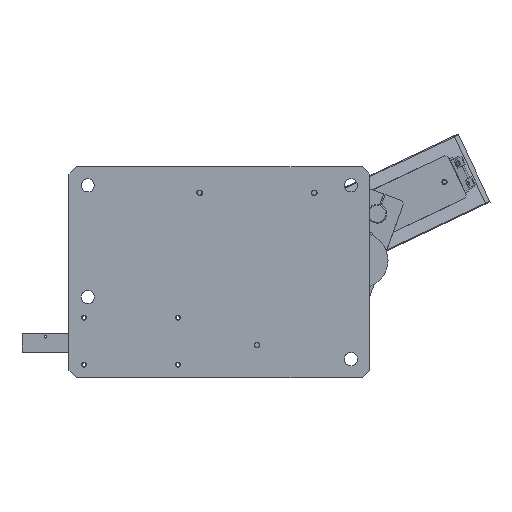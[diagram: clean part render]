
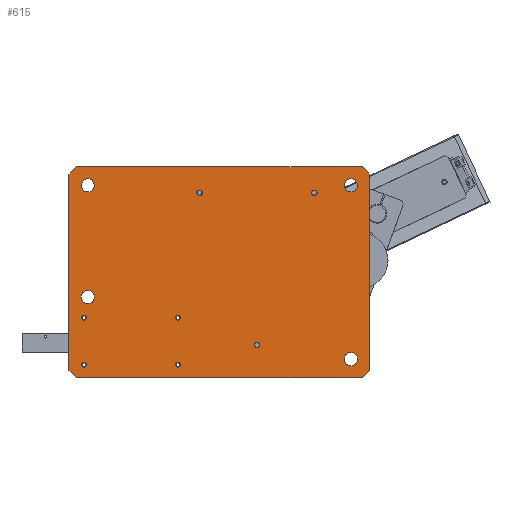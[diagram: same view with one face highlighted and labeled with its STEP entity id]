
A CAD part, front view. The second image highlights one B-rep face of the part: STEP entity #615.
In plain terms, the highlighted planar face has unit normal (0, -1, 0).
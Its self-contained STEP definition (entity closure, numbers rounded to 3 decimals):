
#2=CARTESIAN_POINT('',(-44.,0.,-98.5));
#3=DIRECTION('',(0.,1.,0.));
#4=DIRECTION('',(1.,0.,0.));
#5=AXIS2_PLACEMENT_3D('',#2,#3,#4);
#7=CARTESIAN_POINT('',(-44.,0.,-98.5));
#8=DIRECTION('',(0.,1.,0.));
#9=DIRECTION('',(-1.,0.,0.));
#10=AXIS2_PLACEMENT_3D('',#7,#8,#9);
#12=CARTESIAN_POINT('',(-144.,0.,-98.5));
#13=DIRECTION('',(0.,1.,0.));
#14=DIRECTION('',(1.,0.,0.));
#15=AXIS2_PLACEMENT_3D('',#12,#13,#14);
#17=CARTESIAN_POINT('',(-144.,0.,-98.5));
#18=DIRECTION('',(0.,1.,0.));
#19=DIRECTION('',(-1.,0.,0.));
#20=AXIS2_PLACEMENT_3D('',#17,#18,#19);
#22=CARTESIAN_POINT('',(-44.,0.,-48.5));
#23=DIRECTION('',(0.,1.,0.));
#24=DIRECTION('',(1.,0.,0.));
#25=AXIS2_PLACEMENT_3D('',#22,#23,#24);
#27=CARTESIAN_POINT('',(-44.,0.,-48.5));
#28=DIRECTION('',(0.,1.,0.));
#29=DIRECTION('',(-1.,0.,0.));
#30=AXIS2_PLACEMENT_3D('',#27,#28,#29);
#32=CARTESIAN_POINT('',(-144.,0.,-48.5));
#33=DIRECTION('',(0.,1.,0.));
#34=DIRECTION('',(1.,0.,0.));
#35=AXIS2_PLACEMENT_3D('',#32,#33,#34);
#37=CARTESIAN_POINT('',(-144.,0.,-48.5));
#38=DIRECTION('',(0.,1.,0.));
#39=DIRECTION('',(-1.,0.,0.));
#40=AXIS2_PLACEMENT_3D('',#37,#38,#39);
#42=CARTESIAN_POINT('',(40.,0.,-77.5));
#43=DIRECTION('',(0.,1.,0.));
#44=DIRECTION('',(1.,0.,0.));
#45=AXIS2_PLACEMENT_3D('',#42,#43,#44);
#47=CARTESIAN_POINT('',(40.,0.,-77.5));
#48=DIRECTION('',(0.,1.,0.));
#49=DIRECTION('',(-1.,0.,0.));
#50=AXIS2_PLACEMENT_3D('',#47,#48,#49);
#52=CARTESIAN_POINT('',(-21.,0.,84.5));
#53=DIRECTION('',(0.,1.,0.));
#54=DIRECTION('',(1.,0.,0.));
#55=AXIS2_PLACEMENT_3D('',#52,#53,#54);
#57=CARTESIAN_POINT('',(-21.,0.,84.5));
#58=DIRECTION('',(0.,1.,0.));
#59=DIRECTION('',(-1.,0.,0.));
#60=AXIS2_PLACEMENT_3D('',#57,#58,#59);
#62=CARTESIAN_POINT('',(101.,0.,84.5));
#63=DIRECTION('',(0.,1.,0.));
#64=DIRECTION('',(1.,0.,0.));
#65=AXIS2_PLACEMENT_3D('',#62,#63,#64);
#67=CARTESIAN_POINT('',(101.,0.,84.5));
#68=DIRECTION('',(0.,1.,0.));
#69=DIRECTION('',(-1.,0.,0.));
#70=AXIS2_PLACEMENT_3D('',#67,#68,#69);
#72=CARTESIAN_POINT('',(-140.,0.,92.5));
#73=DIRECTION('',(0.,1.,0.));
#74=DIRECTION('',(1.,0.,0.));
#75=AXIS2_PLACEMENT_3D('',#72,#73,#74);
#77=CARTESIAN_POINT('',(-140.,0.,92.5));
#78=DIRECTION('',(0.,1.,0.));
#79=DIRECTION('',(-1.,0.,0.));
#80=AXIS2_PLACEMENT_3D('',#77,#78,#79);
#82=CARTESIAN_POINT('',(-140.,0.,-26.5));
#83=DIRECTION('',(0.,1.,0.));
#84=DIRECTION('',(1.,0.,0.));
#85=AXIS2_PLACEMENT_3D('',#82,#83,#84);
#87=CARTESIAN_POINT('',(-140.,0.,-26.5));
#88=DIRECTION('',(0.,1.,0.));
#89=DIRECTION('',(-1.,0.,0.));
#90=AXIS2_PLACEMENT_3D('',#87,#88,#89);
#92=CARTESIAN_POINT('',(140.,0.,-92.5));
#93=DIRECTION('',(0.,1.,0.));
#94=DIRECTION('',(1.,0.,0.));
#95=AXIS2_PLACEMENT_3D('',#92,#93,#94);
#97=CARTESIAN_POINT('',(140.,0.,-92.5));
#98=DIRECTION('',(0.,1.,0.));
#99=DIRECTION('',(-1.,0.,0.));
#100=AXIS2_PLACEMENT_3D('',#97,#98,#99);
#102=CARTESIAN_POINT('',(140.,0.,92.5));
#103=DIRECTION('',(0.,1.,0.));
#104=DIRECTION('',(1.,0.,0.));
#105=AXIS2_PLACEMENT_3D('',#102,#103,#104);
#107=CARTESIAN_POINT('',(140.,0.,92.5));
#108=DIRECTION('',(0.,1.,0.));
#109=DIRECTION('',(-1.,0.,0.));
#110=AXIS2_PLACEMENT_3D('',#107,#108,#109);
#112=DIRECTION('',(-0.707,0.,-0.707));
#113=VECTOR('',#112,11.314);
#114=CARTESIAN_POINT('',(-152.,0.,112.5));
#115=LINE('',#114,#113);
#116=DIRECTION('',(1.,0.,0.));
#117=VECTOR('',#116,304.);
#118=CARTESIAN_POINT('',(-152.,0.,112.5));
#119=LINE('',#118,#117);
#120=DIRECTION('',(-0.707,0.,0.707));
#121=VECTOR('',#120,11.314);
#122=CARTESIAN_POINT('',(160.,0.,104.5));
#123=LINE('',#122,#121);
#124=DIRECTION('',(0.,0.,-1.));
#125=VECTOR('',#124,209.);
#126=CARTESIAN_POINT('',(160.,0.,104.5));
#127=LINE('',#126,#125);
#128=DIRECTION('',(0.707,0.,0.707));
#129=VECTOR('',#128,11.314);
#130=CARTESIAN_POINT('',(152.,0.,-112.5));
#131=LINE('',#130,#129);
#132=DIRECTION('',(-1.,0.,0.));
#133=VECTOR('',#132,304.);
#134=CARTESIAN_POINT('',(152.,0.,-112.5));
#135=LINE('',#134,#133);
#136=DIRECTION('',(0.707,0.,-0.707));
#137=VECTOR('',#136,11.314);
#138=CARTESIAN_POINT('',(-160.,0.,-104.5));
#139=LINE('',#138,#137);
#140=DIRECTION('',(0.,0.,1.));
#141=VECTOR('',#140,209.);
#142=CARTESIAN_POINT('',(-160.,0.,-104.5));
#143=LINE('',#142,#141);
#406=CARTESIAN_POINT('',(-152.,0.,112.5));
#407=CARTESIAN_POINT('',(-160.,0.,104.5));
#408=VERTEX_POINT('',#406);
#409=VERTEX_POINT('',#407);
#414=CARTESIAN_POINT('',(160.,0.,104.5));
#415=CARTESIAN_POINT('',(152.,0.,112.5));
#416=VERTEX_POINT('',#414);
#417=VERTEX_POINT('',#415);
#422=CARTESIAN_POINT('',(152.,0.,-112.5));
#423=CARTESIAN_POINT('',(160.,0.,-104.5));
#424=VERTEX_POINT('',#422);
#425=VERTEX_POINT('',#423);
#430=CARTESIAN_POINT('',(-160.,0.,-104.5));
#431=CARTESIAN_POINT('',(-152.,0.,-112.5));
#432=VERTEX_POINT('',#430);
#433=VERTEX_POINT('',#431);
#438=CARTESIAN_POINT('',(-41.85,0.,-98.5));
#439=CARTESIAN_POINT('',(-46.15,0.,-98.5));
#440=VERTEX_POINT('',#438);
#441=VERTEX_POINT('',#439);
#442=CARTESIAN_POINT('',(-141.85,0.,-98.5));
#443=CARTESIAN_POINT('',(-146.15,0.,-98.5));
#444=VERTEX_POINT('',#442);
#445=VERTEX_POINT('',#443);
#446=CARTESIAN_POINT('',(-41.85,0.,-48.5));
#447=CARTESIAN_POINT('',(-46.15,0.,-48.5));
#448=VERTEX_POINT('',#446);
#449=VERTEX_POINT('',#447);
#450=CARTESIAN_POINT('',(-141.85,0.,-48.5));
#451=CARTESIAN_POINT('',(-146.15,0.,-48.5));
#452=VERTEX_POINT('',#450);
#453=VERTEX_POINT('',#451);
#470=CARTESIAN_POINT('',(42.55,0.,-77.5));
#471=CARTESIAN_POINT('',(37.45,0.,-77.5));
#472=VERTEX_POINT('',#470);
#473=VERTEX_POINT('',#471);
#474=CARTESIAN_POINT('',(-18.45,0.,84.5));
#475=CARTESIAN_POINT('',(-23.55,0.,84.5));
#476=VERTEX_POINT('',#474);
#477=VERTEX_POINT('',#475);
#478=CARTESIAN_POINT('',(103.55,0.,84.5));
#479=CARTESIAN_POINT('',(98.45,0.,84.5));
#480=VERTEX_POINT('',#478);
#481=VERTEX_POINT('',#479);
#494=CARTESIAN_POINT('',(-133.,0.,92.5));
#495=CARTESIAN_POINT('',(-147.,0.,92.5));
#496=VERTEX_POINT('',#494);
#497=VERTEX_POINT('',#495);
#498=CARTESIAN_POINT('',(-133.,0.,-26.5));
#499=CARTESIAN_POINT('',(-147.,0.,-26.5));
#500=VERTEX_POINT('',#498);
#501=VERTEX_POINT('',#499);
#502=CARTESIAN_POINT('',(147.,0.,-92.5));
#503=CARTESIAN_POINT('',(133.,0.,-92.5));
#504=VERTEX_POINT('',#502);
#505=VERTEX_POINT('',#503);
#506=CARTESIAN_POINT('',(147.,0.,92.5));
#507=CARTESIAN_POINT('',(133.,0.,92.5));
#508=VERTEX_POINT('',#506);
#509=VERTEX_POINT('',#507);
#526=CARTESIAN_POINT('',(0.,0.,0.));
#527=DIRECTION('',(0.,1.,0.));
#528=DIRECTION('',(1.,0.,0.));
#529=AXIS2_PLACEMENT_3D('',#526,#527,#528);
#530=PLANE('',#529);
#532=ORIENTED_EDGE('',*,*,#531,.F.);
#534=ORIENTED_EDGE('',*,*,#533,.T.);
#536=ORIENTED_EDGE('',*,*,#535,.F.);
#538=ORIENTED_EDGE('',*,*,#537,.T.);
#540=ORIENTED_EDGE('',*,*,#539,.F.);
#542=ORIENTED_EDGE('',*,*,#541,.T.);
#544=ORIENTED_EDGE('',*,*,#543,.F.);
#546=ORIENTED_EDGE('',*,*,#545,.T.);
#547=EDGE_LOOP('',(#532,#534,#536,#538,#540,#542,#544,#546));
#548=FACE_OUTER_BOUND('',#547,.F.);
#550=ORIENTED_EDGE('',*,*,#549,.F.);
#552=ORIENTED_EDGE('',*,*,#551,.F.);
#553=EDGE_LOOP('',(#550,#552));
#554=FACE_BOUND('',#553,.F.);
#556=ORIENTED_EDGE('',*,*,#555,.F.);
#558=ORIENTED_EDGE('',*,*,#557,.F.);
#559=EDGE_LOOP('',(#556,#558));
#560=FACE_BOUND('',#559,.F.);
#562=ORIENTED_EDGE('',*,*,#561,.F.);
#564=ORIENTED_EDGE('',*,*,#563,.F.);
#565=EDGE_LOOP('',(#562,#564));
#566=FACE_BOUND('',#565,.F.);
#568=ORIENTED_EDGE('',*,*,#567,.F.);
#570=ORIENTED_EDGE('',*,*,#569,.F.);
#571=EDGE_LOOP('',(#568,#570));
#572=FACE_BOUND('',#571,.F.);
#574=ORIENTED_EDGE('',*,*,#573,.F.);
#576=ORIENTED_EDGE('',*,*,#575,.F.);
#577=EDGE_LOOP('',(#574,#576));
#578=FACE_BOUND('',#577,.F.);
#580=ORIENTED_EDGE('',*,*,#579,.F.);
#582=ORIENTED_EDGE('',*,*,#581,.F.);
#583=EDGE_LOOP('',(#580,#582));
#584=FACE_BOUND('',#583,.F.);
#586=ORIENTED_EDGE('',*,*,#585,.F.);
#588=ORIENTED_EDGE('',*,*,#587,.F.);
#589=EDGE_LOOP('',(#586,#588));
#590=FACE_BOUND('',#589,.F.);
#592=ORIENTED_EDGE('',*,*,#591,.F.);
#594=ORIENTED_EDGE('',*,*,#593,.F.);
#595=EDGE_LOOP('',(#592,#594));
#596=FACE_BOUND('',#595,.F.);
#598=ORIENTED_EDGE('',*,*,#597,.F.);
#600=ORIENTED_EDGE('',*,*,#599,.F.);
#601=EDGE_LOOP('',(#598,#600));
#602=FACE_BOUND('',#601,.F.);
#604=ORIENTED_EDGE('',*,*,#603,.F.);
#606=ORIENTED_EDGE('',*,*,#605,.F.);
#607=EDGE_LOOP('',(#604,#606));
#608=FACE_BOUND('',#607,.F.);
#610=ORIENTED_EDGE('',*,*,#609,.F.);
#612=ORIENTED_EDGE('',*,*,#611,.F.);
#613=EDGE_LOOP('',(#610,#612));
#614=FACE_BOUND('',#613,.F.);
#615=ADVANCED_FACE('',(#548,#554,#560,#566,#572,#578,#584,#590,#596,#602,#608,
#614),#530,.F.);
#6=CIRCLE('',#5,2.15);
#11=CIRCLE('',#10,2.15);
#16=CIRCLE('',#15,2.15);
#21=CIRCLE('',#20,2.15);
#26=CIRCLE('',#25,2.15);
#31=CIRCLE('',#30,2.15);
#36=CIRCLE('',#35,2.15);
#41=CIRCLE('',#40,2.15);
#46=CIRCLE('',#45,2.55);
#51=CIRCLE('',#50,2.55);
#56=CIRCLE('',#55,2.55);
#61=CIRCLE('',#60,2.55);
#66=CIRCLE('',#65,2.55);
#71=CIRCLE('',#70,2.55);
#76=CIRCLE('',#75,7.);
#81=CIRCLE('',#80,7.);
#86=CIRCLE('',#85,7.);
#91=CIRCLE('',#90,7.);
#96=CIRCLE('',#95,7.);
#101=CIRCLE('',#100,7.);
#106=CIRCLE('',#105,7.);
#111=CIRCLE('',#110,7.);
#531=EDGE_CURVE('',#408,#409,#115,.T.);
#533=EDGE_CURVE('',#408,#417,#119,.T.);
#535=EDGE_CURVE('',#416,#417,#123,.T.);
#537=EDGE_CURVE('',#416,#425,#127,.T.);
#539=EDGE_CURVE('',#424,#425,#131,.T.);
#541=EDGE_CURVE('',#424,#433,#135,.T.);
#543=EDGE_CURVE('',#432,#433,#139,.T.);
#545=EDGE_CURVE('',#432,#409,#143,.T.);
#549=EDGE_CURVE('',#444,#445,#16,.T.);
#551=EDGE_CURVE('',#445,#444,#21,.T.);
#555=EDGE_CURVE('',#448,#449,#26,.T.);
#557=EDGE_CURVE('',#449,#448,#31,.T.);
#561=EDGE_CURVE('',#452,#453,#36,.T.);
#563=EDGE_CURVE('',#453,#452,#41,.T.);
#567=EDGE_CURVE('',#472,#473,#46,.T.);
#569=EDGE_CURVE('',#473,#472,#51,.T.);
#573=EDGE_CURVE('',#476,#477,#56,.T.);
#575=EDGE_CURVE('',#477,#476,#61,.T.);
#579=EDGE_CURVE('',#480,#481,#66,.T.);
#581=EDGE_CURVE('',#481,#480,#71,.T.);
#585=EDGE_CURVE('',#496,#497,#76,.T.);
#587=EDGE_CURVE('',#497,#496,#81,.T.);
#591=EDGE_CURVE('',#500,#501,#86,.T.);
#593=EDGE_CURVE('',#501,#500,#91,.T.);
#597=EDGE_CURVE('',#504,#505,#96,.T.);
#599=EDGE_CURVE('',#505,#504,#101,.T.);
#603=EDGE_CURVE('',#508,#509,#106,.T.);
#605=EDGE_CURVE('',#509,#508,#111,.T.);
#609=EDGE_CURVE('',#440,#441,#6,.T.);
#611=EDGE_CURVE('',#441,#440,#11,.T.);
